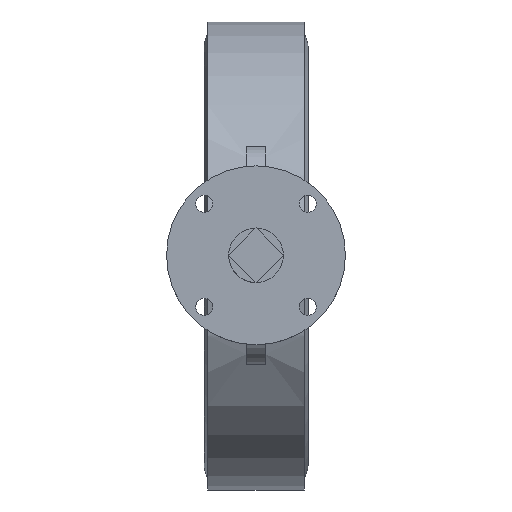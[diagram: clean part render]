
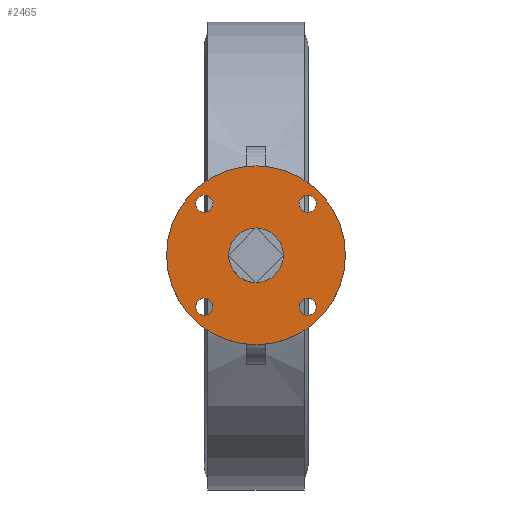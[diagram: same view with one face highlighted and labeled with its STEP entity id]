
A CAD part, top view. The second image highlights one B-rep face of the part: STEP entity #2465.
In plain terms, the highlighted planar face has unit normal (0, 0, 1).
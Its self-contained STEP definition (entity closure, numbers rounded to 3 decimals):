
#2465=ADVANCED_FACE('',(#5414,#5416,#5418,#5420,#5422,#5424),#5426,.T.);
#5414=FACE_BOUND('',#5415,.T.);
#5415=EDGE_LOOP('',(#8266));
#5416=FACE_BOUND('',#5417,.T.);
#5417=EDGE_LOOP('',(#8267));
#5418=FACE_BOUND('',#5419,.T.);
#5419=EDGE_LOOP('',(#8268));
#5420=FACE_BOUND('',#5421,.T.);
#5421=EDGE_LOOP('',(#8269));
#5422=FACE_BOUND('',#5423,.T.);
#5423=EDGE_LOOP('',(#8270));
#5424=FACE_BOUND('',#5425,.T.);
#5425=EDGE_LOOP('',(#8271));
#5426=PLANE('',#5427);
#5427=AXIS2_PLACEMENT_3D('',#5428,#5429,#5430);
#5428=CARTESIAN_POINT('',(0.,0.,282.));
#5429=DIRECTION('',(0.,0.,1.));
#5430=DIRECTION('',(0.,-1.,0.));
#8266=ORIENTED_EDGE('',*,*,#9576,.T.);
#8267=ORIENTED_EDGE('',*,*,#9639,.T.);
#8268=ORIENTED_EDGE('',*,*,#9577,.T.);
#8269=ORIENTED_EDGE('',*,*,#9578,.T.);
#8270=ORIENTED_EDGE('',*,*,#9579,.T.);
#8271=ORIENTED_EDGE('',*,*,#9580,.T.);
#9576=EDGE_CURVE('',#11176,#11176,#11177,.T.);
#9577=EDGE_CURVE('',#11178,#11178,#11179,.F.);
#9578=EDGE_CURVE('',#11180,#11180,#11181,.F.);
#9579=EDGE_CURVE('',#11182,#11182,#11183,.F.);
#9580=EDGE_CURVE('',#11184,#11184,#11185,.F.);
#9639=EDGE_CURVE('',#11283,#11283,#11284,.F.);
#11176=VERTEX_POINT('',#15406);
#11177=CIRCLE('',#15407,62.5);
#11178=VERTEX_POINT('',#15411);
#11179=CIRCLE('',#15412,6.);
#11180=VERTEX_POINT('',#15416);
#11181=CIRCLE('',#15417,6.);
#11182=VERTEX_POINT('',#15421);
#11183=CIRCLE('',#15422,6.);
#11184=VERTEX_POINT('',#15426);
#11185=CIRCLE('',#15427,6.);
#11283=VERTEX_POINT('',#15770);
#11284=CIRCLE('',#15771,19.092);
#15406=CARTESIAN_POINT('',(-62.5,0.,282.));
#15407=AXIS2_PLACEMENT_3D('',#15408,#15409,#15410);
#15408=CARTESIAN_POINT('',(0.,0.,282.));
#15409=DIRECTION('',(0.,0.,1.));
#15410=DIRECTION('',(-1.,0.,0.));
#15411=CARTESIAN_POINT('',(-42.062,-36.062,282.));
#15412=AXIS2_PLACEMENT_3D('',#15413,#15414,#15415);
#15413=CARTESIAN_POINT('',(-36.062,-36.062,282.));
#15414=DIRECTION('',(0.,0.,1.));
#15415=DIRECTION('',(-1.,0.,0.));
#15416=CARTESIAN_POINT('',(36.062,-42.062,282.));
#15417=AXIS2_PLACEMENT_3D('',#15418,#15419,#15420);
#15418=CARTESIAN_POINT('',(36.062,-36.062,282.));
#15419=DIRECTION('',(0.,0.,1.));
#15420=DIRECTION('',(0.,-1.,0.));
#15421=CARTESIAN_POINT('',(42.062,36.062,282.));
#15422=AXIS2_PLACEMENT_3D('',#15423,#15424,#15425);
#15423=CARTESIAN_POINT('',(36.062,36.062,282.));
#15424=DIRECTION('',(0.,0.,1.));
#15425=DIRECTION('',(1.,0.,0.));
#15426=CARTESIAN_POINT('',(-36.062,42.062,282.));
#15427=AXIS2_PLACEMENT_3D('',#15428,#15429,#15430);
#15428=CARTESIAN_POINT('',(-36.062,36.062,282.));
#15429=DIRECTION('',(0.,0.,1.));
#15430=DIRECTION('',(0.,1.,0.));
#15770=CARTESIAN_POINT('',(0.,-19.092,282.));
#15771=AXIS2_PLACEMENT_3D('',#15772,#15773,#15774);
#15772=CARTESIAN_POINT('',(0.,0.,282.));
#15773=DIRECTION('',(0.,0.,1.));
#15774=DIRECTION('',(0.,-1.,0.));
